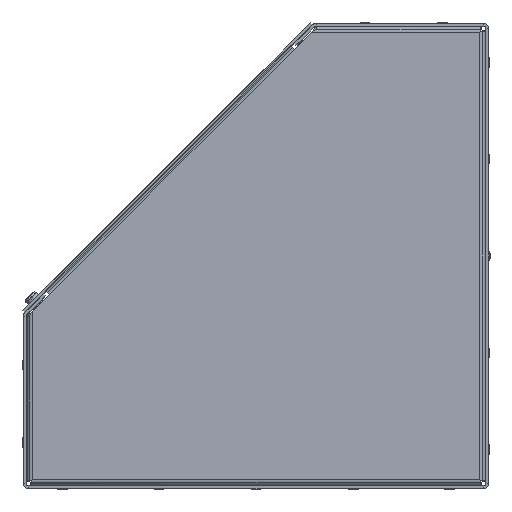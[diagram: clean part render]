
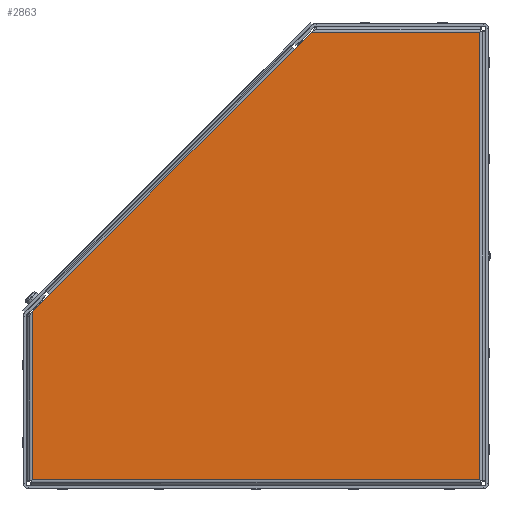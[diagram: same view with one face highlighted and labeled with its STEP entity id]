
A CAD part, left-side view. The second image highlights one B-rep face of the part: STEP entity #2863.
In plain terms, the highlighted planar face has unit normal (-1, 0, 0) as drawn and (1, 0, 0) by its records, which use the part's own axes.
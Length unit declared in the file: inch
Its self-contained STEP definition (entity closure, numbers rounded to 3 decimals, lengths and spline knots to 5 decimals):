
#96 = EDGE_CURVE ( 'NONE', #9811, #10470, #9871, .T. ) ;
#454 = LINE ( 'NONE', #15376, #12565 ) ;
#848 = DIRECTION ( 'NONE',  ( 0., 0., -1. ) ) ;
#1005 = CARTESIAN_POINT ( 'NONE',  ( 0., 0., 0. ) ) ;
#1029 = ORIENTED_EDGE ( 'NONE', *, *, #4285, .T. ) ;
#1438 = VECTOR ( 'NONE', #17249, 39.37008 ) ;
#1702 = CARTESIAN_POINT ( 'NONE',  ( 0., 11.552, -11.552 ) ) ;
#2794 = LINE ( 'NONE', #7770, #19166 ) ;
#2863 = ADVANCED_FACE ( 'NONE', ( #18475 ), #19824, .T. ) ;
#2876 = VECTOR ( 'NONE', #15777, 39.37008 ) ;
#3313 = DIRECTION ( 'NONE',  ( 0., 0., 1. ) ) ;
#3732 = EDGE_CURVE ( 'NONE', #18187, #17679, #454, .T. ) ;
#3762 = EDGE_CURVE ( 'NONE', #5251, #12454, #20036, .T. ) ;
#3949 = CARTESIAN_POINT ( 'NONE',  ( 0., 0., 0. ) ) ;
#3991 = DIRECTION ( 'NONE',  ( 0., 0., -1. ) ) ;
#4093 = ORIENTED_EDGE ( 'NONE', *, *, #5748, .T. ) ;
#4285 = EDGE_CURVE ( 'NONE', #17679, #5251, #12552, .T. ) ;
#5251 = VERTEX_POINT ( 'NONE', #14592 ) ;
#5748 = EDGE_CURVE ( 'NONE', #7750, #9811, #16009, .T. ) ;
#6830 = ORIENTED_EDGE ( 'NONE', *, *, #3732, .T. ) ;
#7563 = DIRECTION ( 'NONE',  ( 0., 1., 0. ) ) ;
#7749 = CARTESIAN_POINT ( 'NONE',  ( 0., 11.10475, -6.76674 ) ) ;
#7750 = VERTEX_POINT ( 'NONE', #10058 ) ;
#7770 = CARTESIAN_POINT ( 'NONE',  ( 0., 11.552, -7.21399 ) ) ;
#7933 = CARTESIAN_POINT ( 'NONE',  ( 0., 4.78526, -0.44725 ) ) ;
#7959 = CARTESIAN_POINT ( 'NONE',  ( 0., 11.10475, -6.76674 ) ) ;
#8369 = VECTOR ( 'NONE', #3991, 39.37008 ) ;
#8372 = EDGE_CURVE ( 'NONE', #10470, #18187, #2794, .T. ) ;
#8794 = CARTESIAN_POINT ( 'NONE',  ( 0., 11.552, -11.552 ) ) ;
#9388 = CARTESIAN_POINT ( 'NONE',  ( 0., 11.552, -7.21399 ) ) ;
#9522 = ORIENTED_EDGE ( 'NONE', *, *, #8372, .T. ) ;
#9811 = VERTEX_POINT ( 'NONE', #7959 ) ;
#9871 = LINE ( 'NONE', #7749, #1438 ) ;
#10058 = CARTESIAN_POINT ( 'NONE',  ( 0., 11.552, -7.21399 ) ) ;
#10229 = CARTESIAN_POINT ( 'NONE',  ( 0., 0., 0. ) ) ;
#10331 = DIRECTION ( 'NONE',  ( 1., 0., 0. ) ) ;
#10470 = VERTEX_POINT ( 'NONE', #7933 ) ;
#10583 = VECTOR ( 'NONE', #3313, 39.37008 ) ;
#12454 = VERTEX_POINT ( 'NONE', #8794 ) ;
#12552 = LINE ( 'NONE', #10229, #8369 ) ;
#12565 = VECTOR ( 'NONE', #16833, 39.37008 ) ;
#13153 = ORIENTED_EDGE ( 'NONE', *, *, #96, .T. ) ;
#14068 = EDGE_LOOP ( 'NONE', ( #6830, #1029, #14967, #14883, #4093, #13153, #9522 ) ) ;
#14592 = CARTESIAN_POINT ( 'NONE',  ( 0., 0., -11.552 ) ) ;
#14674 = AXIS2_PLACEMENT_3D ( 'NONE', #3949, #10331, #848 ) ;
#14883 = ORIENTED_EDGE ( 'NONE', *, *, #19058, .T. ) ;
#14967 = ORIENTED_EDGE ( 'NONE', *, *, #3762, .T. ) ;
#15376 = CARTESIAN_POINT ( 'NONE',  ( 0., 4.33801, 0. ) ) ;
#15456 = CARTESIAN_POINT ( 'NONE',  ( 0., 0., -11.552 ) ) ;
#15777 = DIRECTION ( 'NONE',  ( 0., -0.707, 0.707 ) ) ;
#15828 = VECTOR ( 'NONE', #7563, 39.37008 ) ;
#16009 = LINE ( 'NONE', #9388, #2876 ) ;
#16833 = DIRECTION ( 'NONE',  ( 0., -1., 0. ) ) ;
#17249 = DIRECTION ( 'NONE',  ( 0., -0.707, 0.707 ) ) ;
#17679 = VERTEX_POINT ( 'NONE', #1005 ) ;
#18045 = CARTESIAN_POINT ( 'NONE',  ( 0., 4.33801, 0. ) ) ;
#18187 = VERTEX_POINT ( 'NONE', #18045 ) ;
#18475 = FACE_OUTER_BOUND ( 'NONE', #14068, .T. ) ;
#18852 = DIRECTION ( 'NONE',  ( 0., -0.707, 0.707 ) ) ;
#19040 = LINE ( 'NONE', #1702, #10583 ) ;
#19058 = EDGE_CURVE ( 'NONE', #12454, #7750, #19040, .T. ) ;
#19166 = VECTOR ( 'NONE', #18852, 39.37008 ) ;
#19824 = PLANE ( 'NONE',  #14674 ) ;
#20036 = LINE ( 'NONE', #15456, #15828 ) ;
